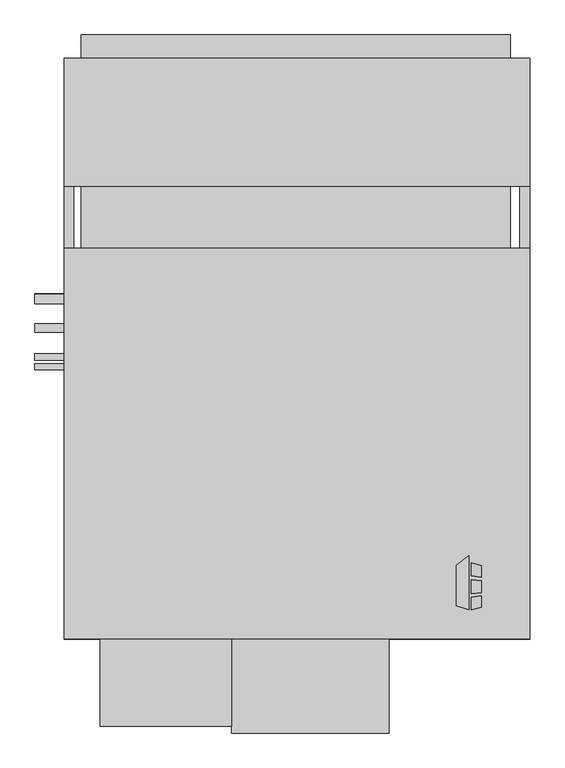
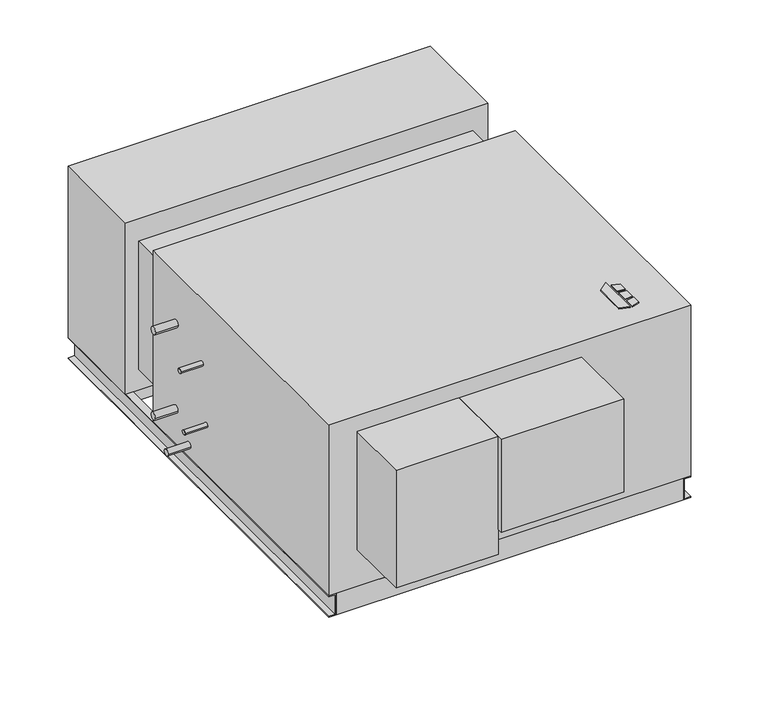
"""IFC4 building model written with IfcOpenShell, lengths in millimetres: proxy geometry, Horizontal_Direct_Drive_Blower_Coil_Unit_-_HDY_-_IEC_-_4-Pipe_NFilterR_W-MixingBox_LH_2022 : Size 20 - 460v/60Hz/3Ph - 6/2 Coil."""

import ifcopenshell
import ifcopenshell.guid

model = None  # the IFC model being written
_history = None  # IfcOwnerHistory: only IFC2X3 demands one
_inside = {}  # id of a spatial element -> (the spatial element, [elements in it])
_under = {}  # id of a project, library or spatial element -> (it, [spatial elements below it])
_declared = {}  # id of a project -> (the project, [libraries it declares])
_typed = {}  # id of a type object -> (the type object, [elements of that type])
_made_of = {}  # id of a material, layer set ... -> (it, [elements and type objects made of it])


def new_model(schema):
    """Start an empty IFC model of exactly this schema.

    Asked for "IFC4X3", IfcOpenShell would pick the latest addendum, in which some entities
    have other attributes; the version numbers below select the first issue.
    IFC2X3 requires an IfcOwnerHistory on every rooted entity: one is made here for all.
    """
    global model, _history
    if schema == "IFC4X3":
        model = ifcopenshell.file(schema_version=(4, 3, 0, 0))
    else:
        model = ifcopenshell.file(schema=schema)
    _inside.clear()
    _under.clear()
    _declared.clear()
    _typed.clear()
    _made_of.clear()
    _history = None
    if model.schema == "IFC2X3":
        org = make("IfcOrganization", Name="unknown")
        user = make(
            "IfcPersonAndOrganization",
            ThePerson=make("IfcPerson", FamilyName="unknown"),
            TheOrganization=org,
        )
        app = make(
            "IfcApplication",
            ApplicationDeveloper=org,
            Version="unknown",
            ApplicationFullName="unknown",
            ApplicationIdentifier="unknown",
        )
        _history = make(
            "IfcOwnerHistory",
            OwningUser=user,
            OwningApplication=app,
            ChangeAction="ADDED",
            CreationDate=0,
        )
    return model


def make(cls, **values):
    """One entity of the class cls with the attributes given. An attribute that is None is left unset."""
    return model.create_entity(
        cls, **{name: value for name, value in values.items() if value is not None}
    )


def rooted(cls, **values):
    """An entity with a GlobalId (a new one), such as an element, a storey or a relation."""
    return make(cls, GlobalId=ifcopenshell.guid.new(), OwnerHistory=_history, **values)


def si_unit(unit_type, name, prefix=None):
    """IfcSIUnit, for example si_unit("LENGTHUNIT", "METRE", prefix="MILLI")."""
    return make("IfcSIUnit", UnitType=unit_type, Prefix=prefix, Name=name)


def assignment(units):
    """IfcUnitAssignment: the units of a project."""
    return None if units is None else make("IfcUnitAssignment", Units=units)


def point(xyz):
    """IfcCartesianPoint."""
    return None if xyz is None else make("IfcCartesianPoint", Coordinates=xyz)


def direction(xyz):
    """IfcDirection."""
    return None if xyz is None else make("IfcDirection", DirectionRatios=xyz)


def frame(location, z_axis=None, x_axis=None):
    """IfcAxis2Placement3D, a coordinate frame: its origin and axes. An axis left out is left unset."""
    return make(
        "IfcAxis2Placement3D",
        Location=point(location),
        Axis=direction(z_axis),
        RefDirection=direction(x_axis),
    )


def frame_2d(location, x_axis=None):
    """IfcAxis2Placement2D, a coordinate frame in the plane: its origin and x axis."""
    return make(
        "IfcAxis2Placement2D", Location=point(location), RefDirection=direction(x_axis)
    )


def origin():
    """The frame at (0, 0, 0) with its axes left unset."""
    return frame((0.0, 0.0, 0.0))


def origin_with_axes():
    """The frame at (0, 0, 0) with the z axis (0, 0, 1) and the x axis (1, 0, 0) written out."""
    return frame((0.0, 0.0, 0.0), z_axis=(0.0, 0.0, 1.0), x_axis=(1.0, 0.0, 0.0))


def place(relative_to, where):
    """IfcLocalPlacement: puts the frame where relative to a parent placement (None: the world)."""
    return make(
        "IfcLocalPlacement", PlacementRelTo=relative_to, RelativePlacement=where
    )


def context(
    kind, dimensions, precision=None, world=None, true_north=None, identifier=None
):
    """IfcGeometricRepresentationContext, for example the 3D "Model" context."""
    return make(
        "IfcGeometricRepresentationContext",
        ContextIdentifier=identifier,
        ContextType=kind,
        CoordinateSpaceDimension=dimensions,
        Precision=precision,
        WorldCoordinateSystem=world,
        TrueNorth=true_north,
    )


def project(units=None, contexts=None):
    """IfcProject with its units and contexts."""
    return rooted(
        "IfcProject",
        Name="project",
        RepresentationContexts=contexts,
        UnitsInContext=assignment(units),
    )


def spatial(cls, under=None, at=None, **own):
    """A site, building, storey or space (cls), placed at a placement, below another one or the project."""
    s = rooted(cls, ObjectPlacement=at, **own)
    if under is not None:
        _under.setdefault(under.id(), (under, []))[1].append(s)
    return s


def polyline(points):
    """IfcPolyline through the points."""
    return make("IfcPolyline", Points=[point(p) for p in points])


def circle_curve(where, radius):
    """IfcCircle in the frame where."""
    return make("IfcCircle", Position=where, Radius=radius)


def trimmed(basis, trim1, trim2, sense, master):
    """IfcTrimmedCurve: the piece of a basis curve between two trims."""
    return make(
        "IfcTrimmedCurve",
        BasisCurve=basis,
        Trim1=trim1,
        Trim2=trim2,
        SenseAgreement=sense,
        MasterRepresentation=master,
    )


def segment(curve, same_sense, transition):
    """IfcCompositeCurveSegment."""
    return make(
        "IfcCompositeCurveSegment",
        Transition=transition,
        SameSense=same_sense,
        ParentCurve=curve,
    )


def composite_curve(segments, self_intersect=None):
    """IfcCompositeCurve: segments joined end to end."""
    return make("IfcCompositeCurve", Segments=segments, SelfIntersect=self_intersect)


def outline(outer, holes=None, kind="AREA"):
    """IfcArbitraryClosedProfileDef: a profile drawn as a closed curve; with holes, ...WithVoids."""
    if holes is None:
        return make("IfcArbitraryClosedProfileDef", ProfileType=kind, OuterCurve=outer)
    return make(
        "IfcArbitraryProfileDefWithVoids",
        ProfileType=kind,
        OuterCurve=outer,
        InnerCurves=holes,
    )


def extrude(swept, where, along, depth):
    """IfcExtrudedAreaSolid: the profile swept, set in the frame where, extruded along a direction by depth."""
    return make(
        "IfcExtrudedAreaSolid",
        SweptArea=swept,
        Position=where,
        ExtrudedDirection=direction(along),
        Depth=depth,
    )


def shape(context_of_items, identifier, shape_type, items):
    """IfcShapeRepresentation: the items that make up one representation, for example the "Body"."""
    return make(
        "IfcShapeRepresentation",
        ContextOfItems=context_of_items,
        RepresentationIdentifier=identifier,
        RepresentationType=shape_type,
        Items=items,
    )


def source(mapping_origin, context_of_items, identifier, shape_type, items):
    """IfcRepresentationMap: a shape defined once, which mapped items show again and again."""
    return make(
        "IfcRepresentationMap",
        MappingOrigin=mapping_origin,
        MappedRepresentation=shape(context_of_items, identifier, shape_type, items),
    )


def transform(
    local_origin,
    x_axis=None,
    y_axis=None,
    z_axis=None,
    scale=None,
    scale2=None,
    scale3=None,
    uniform=True,
):
    """IfcCartesianTransformationOperator3D, or its non-uniform kind. x_axis, y_axis, z_axis: its Axis1, 2, 3."""
    if uniform:
        return make(
            "IfcCartesianTransformationOperator3D",
            Axis1=direction(x_axis),
            Axis2=direction(y_axis),
            LocalOrigin=point(local_origin),
            Scale=scale,
            Axis3=direction(z_axis),
        )
    return make(
        "IfcCartesianTransformationOperator3DnonUniform",
        Axis1=direction(x_axis),
        Axis2=direction(y_axis),
        LocalOrigin=point(local_origin),
        Scale=scale,
        Axis3=direction(z_axis),
        Scale2=scale2,
        Scale3=scale3,
    )


def mapped(mapping_source, mapping_target):
    """IfcMappedItem: shows the shape of a source again, moved by a transform."""
    return make(
        "IfcMappedItem", MappingSource=mapping_source, MappingTarget=mapping_target
    )


def made_of(thing, what):
    """Note that an element or type object is made of a material, layer set ...; save() writes the relation."""
    if what is not None:
        _made_of.setdefault(what.id(), (what, []))[1].append(thing)
    return thing


def element(
    cls,
    number,
    at=None,
    inside=None,
    cuts=None,
    type_object=None,
    material=None,
    context=None,
    identifier="Body",
    shape_type=None,
    held_by="IfcProductDefinitionShape",
    body=None,
    shapes=None,
    **own,
):
    """One element of the class cls, such as IfcWall. Its Tag is "e" and its number.

    at: its placement. inside: the storey or other place that contains it. cuts: it is an
    opening in that element (IfcRelVoidsElement). A single representation is given by context,
    identifier, shape_type and body (its items); several are given by shapes. held_by: the class
    of the entity that holds the representations. save() writes the other relations.
    """
    e = rooted(cls, Tag="e%d" % number, ObjectPlacement=at, **own)
    if body is not None:
        shapes = [shape(context, identifier, shape_type, body)]
    if shapes is not None:
        e.Representation = make(held_by, Representations=shapes)
    if inside is not None:
        _inside.setdefault(inside.id(), (inside, []))[1].append(e)
    if cuts is not None:
        rooted(
            "IfcRelVoidsElement", RelatingBuildingElement=cuts, RelatedOpeningElement=e
        )
    if type_object is not None:
        _typed.setdefault(type_object.id(), (type_object, []))[1].append(e)
    return made_of(e, material)


def aggregate(whole, parts):
    """IfcRelAggregates: a whole, such as a stair, and the parts it consists of."""
    return rooted("IfcRelAggregates", RelatingObject=whole, RelatedObjects=parts)


def save(model, path):
    """Write the relations noted so far, then the file.

    IfcRelAggregates (storeys below a building ...), IfcRelContainedInSpatialStructure (elements
    in a storey), IfcRelDefinesByType, IfcRelAssociatesMaterial and IfcRelDeclares: one each for
    every whole, place, type object, material and project.
    """
    for whole, parts in _under.values():
        aggregate(whole, parts)
    for where, things in _inside.values():
        rooted(
            "IfcRelContainedInSpatialStructure",
            RelatedElements=things,
            RelatingStructure=where,
        )
    for kind, things in _typed.values():
        rooted("IfcRelDefinesByType", RelatedObjects=things, RelatingType=kind)
    for what, things in _made_of.values():
        rooted("IfcRelAssociatesMaterial", RelatedObjects=things, RelatingMaterial=what)
    for by, libraries in _declared.values():
        rooted("IfcRelDeclares", RelatingContext=by, RelatedDefinitions=libraries)
    model.write(path)


def mechanical_equipment_6e24a03b(model_context):
    return source(origin(), model_context, "Body", "SweptSolid", [
        extrude(outline(polyline([(-39.9980239, -337.5078476), (-7.4397272, -312.0705184), (-7.4397272, -454.025), (-39.9980239, -443.8054201), (-39.9980239, -337.5078476)])), origin_with_axes(), (0.0, 0.0, 1.0), 3.175),
        extrude(outline(polyline([(-0.6813942, -365.379852), (-0.6813942, -330.8999379), (25.4, -339.0865115), (25.4, -368.5822446), (-0.6813942, -365.379852)])), origin_with_axes(), (0.0, 0.0, 1.0), 3.175),
        extrude(outline(polyline([(25.4, -447.0365115), (-0.6813942, -454.025), (-0.6813942, -420.8036996), (25.4, -417.2618564), (25.4, -447.0365115)])), origin_with_axes(), (0.0, 0.0, 1.0), 3.175),
        extrude(outline(polyline([(25.4, -377.6638277), (25.4, -408.913983), (-0.6813942, -411.655248), (-0.6813942, -375.7975378), (25.4, -377.6638277)])), origin_with_axes(), (0.0, 0.0, 1.0), 3.175),
        extrude(outline(polyline([(101.6, 887.095), (101.6, 683.895), (-1022.35, 683.895), (-1022.35, 887.095), (101.6, 887.095)])), frame((0.0, 0.0, -670.56), z_axis=(0.0, 0.0, 1.0), x_axis=(1.0, 0.0, 0.0)), (0.0, 0.0, 1.0), 60.96),
        extrude(outline(polyline([(-1022.35, 1049.655), (101.6, 1049.655), (101.6, 988.695), (-1022.35, 988.695), (-1022.35, 1049.655)])), frame((0.0, 0.0, -279.4), z_axis=(0.0, 0.0, 1.0), x_axis=(1.0, 0.0, 0.0)), (0.0, 0.0, 1.0), 203.2),
        extrude(outline(polyline([(152.4, 988.695), (152.4, 654.05), (-1066.8, 654.05), (-1066.8, 988.695), (152.4, 988.695)])), frame((0.0, 0.0, -609.6), z_axis=(0.0, 0.0, 1.0), x_axis=(1.0, 0.0, 0.0)), (0.0, 0.0, 1.0), 609.6),
        extrude(outline(polyline([(127.0, -504.825), (127.0, -530.225), (-1041.4, -530.225), (-1041.4, -504.825), (127.0, -504.825)])), frame((0.0, 0.0, -685.8), z_axis=(0.0, 0.0, 1.0), x_axis=(1.0, 0.0, 0.0)), (0.0, 0.0, 1.0), 76.2),
        extrude(outline(polyline([(127.0, 988.695), (127.0, 963.295), (-1041.4, 963.295), (-1041.4, 988.695), (127.0, 988.695)])), frame((0.0, 0.0, -685.8), z_axis=(0.0, 0.0, 1.0), x_axis=(1.0, 0.0, 0.0)), (0.0, 0.0, 1.0), 76.2),
        extrude(outline(polyline([(-609.6, -1041.4), (-609.6, -1066.8), (-612.775, -1066.8), (-612.775, -1044.575), (-682.625, -1044.575), (-682.625, -1066.8), (-685.8, -1066.8), (-685.8, -1041.4), (-609.6, -1041.4)])), frame((0.0, -530.225, 0.0), z_axis=(0.0, 1.0, 0.0), x_axis=(0.0, 0.0, 1.0)), (0.0, 0.0, 1.0), 1518.92),
        extrude(outline(polyline([(-609.6, 127.0), (-685.8, 127.0), (-685.8, 152.4), (-682.625, 152.4), (-682.625, 130.175), (-612.775, 130.175), (-612.775, 152.4), (-609.6, 152.4), (-609.6, 127.0)])), frame((0.0, -530.225, 0.0), z_axis=(0.0, 1.0, 0.0), x_axis=(0.0, 0.0, 1.0)), (0.0, 0.0, 1.0), 1518.92),
        extrude(outline(composite_curve([segment(trimmed(circle_curve(frame_2d((358.775, -177.8)), 12.7), [point((371.475, -177.8))], [point((346.075, -177.8))], False, "CARTESIAN"), True, "CONTINUOUS"), segment(trimmed(circle_curve(frame_2d((358.775, -177.8)), 12.7), [point((346.075, -177.8))], [point((371.475, -177.8))], False, "CARTESIAN"), True, "CONTINUOUS")], self_intersect=False)), frame((-1143.0, 0.0, 0.0), z_axis=(1.0, 0.0, 0.0), x_axis=(0.0, 1.0, 0.0)), (0.0, 0.0, 1.0), 76.2),
        extrude(outline(composite_curve([segment(trimmed(circle_curve(frame_2d((359.642288, -482.6)), 12.7), [point((372.342288, -482.6))], [point((346.942288, -482.6))], False, "CARTESIAN"), True, "CONTINUOUS"), segment(trimmed(circle_curve(frame_2d((359.642288, -482.6)), 12.7), [point((346.942288, -482.6))], [point((372.342288, -482.6))], False, "CARTESIAN"), True, "CONTINUOUS")], self_intersect=False)), frame((-1143.0, 0.0, 0.0), z_axis=(1.0, 0.0, 0.0), x_axis=(0.0, 1.0, 0.0)), (0.0, 0.0, 1.0), 76.2),
        extrude(outline(composite_curve([segment(trimmed(circle_curve(frame_2d((283.442288, -565.15)), 11.1125), [point((294.554788, -565.15))], [point((272.329788, -565.15))], False, "CARTESIAN"), True, "CONTINUOUS"), segment(trimmed(circle_curve(frame_2d((283.442288, -565.15)), 11.1125), [point((272.329788, -565.15))], [point((294.554788, -565.15))], False, "CARTESIAN"), True, "CONTINUOUS")], self_intersect=False)), frame((-1143.0, 0.0, 0.0), z_axis=(1.0, 0.0, 0.0), x_axis=(0.0, 1.0, 0.0)), (0.0, 0.0, 1.0), 76.2),
        extrude(outline(composite_curve([segment(trimmed(circle_curve(frame_2d((207.242288, -228.6)), 7.9375), [point((215.179788, -228.6))], [point((199.304788, -228.6))], False, "CARTESIAN"), True, "CONTINUOUS"), segment(trimmed(circle_curve(frame_2d((207.242288, -228.6)), 7.9375), [point((199.304788, -228.6))], [point((215.179788, -228.6))], False, "CARTESIAN"), True, "CONTINUOUS")], self_intersect=False)), frame((-1143.0, 0.0, 0.0), z_axis=(1.0, 0.0, 0.0), x_axis=(0.0, 1.0, 0.0)), (0.0, 0.0, 1.0), 76.2),
        extrude(outline(composite_curve([segment(trimmed(circle_curve(frame_2d((181.842288, -432.0792556)), 7.9375), [point((189.779788, -432.0792556))], [point((173.904788, -432.0792556))], False, "CARTESIAN"), True, "CONTINUOUS"), segment(trimmed(circle_curve(frame_2d((181.842288, -432.0792556)), 7.9375), [point((173.904788, -432.0792556))], [point((189.779788, -432.0792556))], False, "CARTESIAN"), True, "CONTINUOUS")], self_intersect=False)), frame((-1143.0, 0.0, 0.0), z_axis=(1.0, 0.0, 0.0), x_axis=(0.0, 1.0, 0.0)), (0.0, 0.0, 1.0), 76.2),
        extrude(outline(polyline([(152.4, 492.125), (152.4, -530.225), (-1066.8, -530.225), (-1066.8, 492.125), (152.4, 492.125)])), frame((0.0, 0.0, -609.6), z_axis=(0.0, 0.0, 1.0), x_axis=(1.0, 0.0, 0.0)), (0.0, 0.0, 1.0), 609.6),
        extrude(outline(polyline([(-628.65, -758.825), (-971.55, -758.825), (-971.55, -530.225), (-628.65, -530.225), (-628.65, -758.825)])), frame((0.0, 0.0, -476.25), z_axis=(0.0, 0.0, 1.0), x_axis=(1.0, 0.0, 0.0)), (0.0, 0.0, 1.0), 419.1),
        extrude(outline(polyline([(-1022.35, 654.05), (101.6, 654.05), (101.6, 492.125), (-1022.35, 492.125), (-1022.35, 654.05)])), frame((0.0, 0.0, -536.575), z_axis=(0.0, 0.0, 1.0), x_axis=(1.0, 0.0, 0.0)), (0.0, 0.0, 1.0), 457.2),
        extrude(outline(polyline([(-215.9, -776.2875), (-628.65, -776.2875), (-628.65, -530.225), (-215.9, -530.225), (-215.9, -776.2875)])), frame((0.0, 0.0, -387.35), z_axis=(0.0, 0.0, 1.0), x_axis=(1.0, 0.0, 0.0)), (0.0, 0.0, 1.0), 330.2),
    ])


if __name__ == "__main__":
    model = new_model("IFC4")
    model_context = context("Model", 3, world=origin())
    ifc_project = project(units=[si_unit("LENGTHUNIT", "METRE", prefix="MILLI")], contexts=[model_context])
    site = spatial("IfcSite", under=ifc_project)
    building = spatial("IfcBuilding", under=site)
    placement = place(None, origin())
    mechanical_equipment_shape = mechanical_equipment_6e24a03b(model_context)
    element("IfcBuildingElementProxy", 1, Name="Horizontal_Direct_Drive_Blower_Coil_Unit_-_HDY_-_IEC_-_4-Pipe_NFilterR_W-MixingBox_LH_2022 : Size 20 - 460v/60Hz/3Ph - 6/2 Coil", ObjectType="Horizontal_Direct_Drive_Blower_Coil_Unit_-_HDY_-_IEC_-_4-Pipe_NFilterR_W-MixingBox_LH_2022 : Size 20 - 460v/60Hz/3Ph - 6/2 Coil", at=placement, inside=building, context=model_context, shape_type="MappedRepresentation", body=[
        mapped(mechanical_equipment_shape, transform((0.0, 0.0, 0.0), x_axis=(1.0, 0.0, 0.0), y_axis=(0.0, 1.0, 0.0), z_axis=(0.0, 0.0, 1.0))),
    ])
    save(model, "model.ifc")
